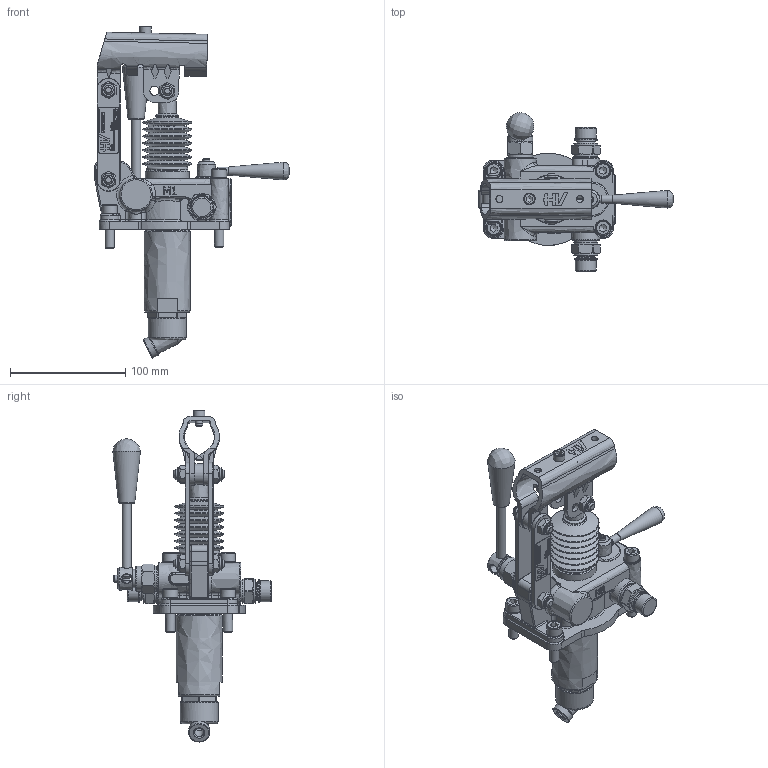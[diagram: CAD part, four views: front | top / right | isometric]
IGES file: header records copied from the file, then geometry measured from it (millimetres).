
Global section: file name: No Iges File Name specified; native system: Autodesk Inventor 2013; preprocessor: AutoDesk Inventor Iges Exporter R2013; author: christian.scardovi; date: 20240304.100145; units: millimetre
Bounding box: 169 x 137.49 x 288.31 mm (x, y, z)
Volume: 535924.4 mm3; surface area: 137973.3 mm2
Topology: 3 solids, 3 shells, 1541 faces, 3916 edges, 2485 vertices
Faces by surface type: bspline 1541
